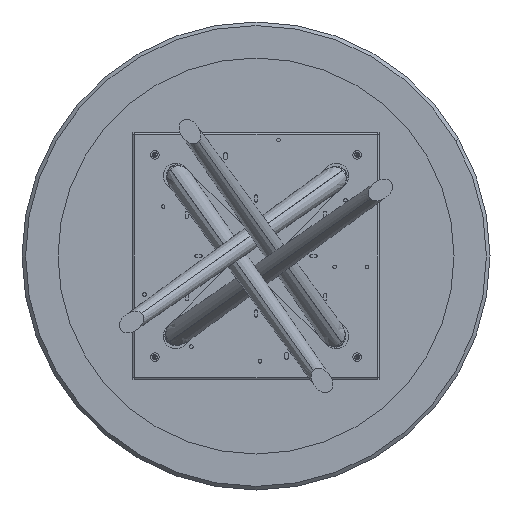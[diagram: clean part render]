
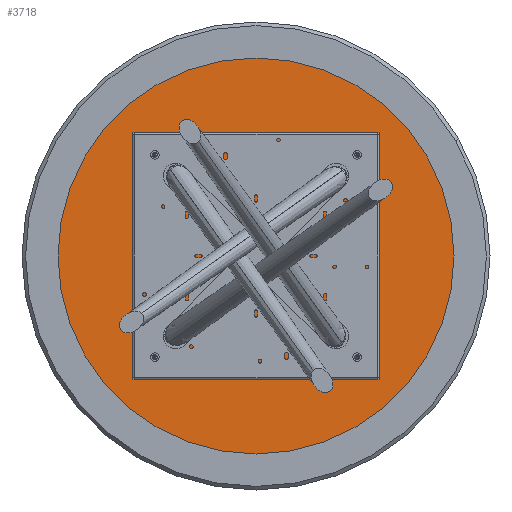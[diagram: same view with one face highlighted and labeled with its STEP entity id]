
A CAD part, front view. The second image highlights one B-rep face of the part: STEP entity #3718.
In plain terms, the highlighted planar face has unit normal (0, -1, 0).
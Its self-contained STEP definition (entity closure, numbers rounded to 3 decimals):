
#61 = FACE_BOUND ( 'NONE', #10996, .T. ) ;
#127 = DIRECTION ( 'NONE',  ( 0., 0., -1. ) ) ;
#259 = CARTESIAN_POINT ( 'NONE',  ( 397.5, 0., -3.4 ) ) ;
#334 = CARTESIAN_POINT ( 'NONE',  ( 0., 0., 550. ) ) ;
#338 = VERTEX_POINT ( 'NONE', #7063 ) ;
#502 = EDGE_CURVE ( 'NONE', #12210, #4752, #9726, .T. ) ;
#581 = CIRCLE ( 'NONE', #10835, 3.4 ) ;
#654 = CARTESIAN_POINT ( 'NONE',  ( 0., 0., 6.3 ) ) ;
#704 = AXIS2_PLACEMENT_3D ( 'NONE', #17558, #1125, #10766 ) ;
#822 = CARTESIAN_POINT ( 'NONE',  ( 397.5, 0., 0. ) ) ;
#827 = AXIS2_PLACEMENT_3D ( 'NONE', #8228, #2523, #7955 ) ;
#977 = CIRCLE ( 'NONE', #10679, 3.4 ) ;
#1125 = DIRECTION ( 'NONE',  ( 0., 1., 0. ) ) ;
#1285 = EDGE_CURVE ( 'NONE', #338, #9634, #15252, .T. ) ;
#1685 = DIRECTION ( 'NONE',  ( 0., -1., 0. ) ) ;
#2099 = DIRECTION ( 'NONE',  ( 0., 0., -1. ) ) ;
#2197 = EDGE_LOOP ( 'NONE', ( #5342, #2463 ) ) ;
#2326 = AXIS2_PLACEMENT_3D ( 'NONE', #8586, #12848, #7509 ) ;
#2436 = EDGE_LOOP ( 'NONE', ( #9378, #3896 ) ) ;
#2463 = ORIENTED_EDGE ( 'NONE', *, *, #4384, .F. ) ;
#2523 = DIRECTION ( 'NONE',  ( 0., 1., 0. ) ) ;
#2785 = ORIENTED_EDGE ( 'NONE', *, *, #14747, .F. ) ;
#2996 = ORIENTED_EDGE ( 'NONE', *, *, #9427, .F. ) ;
#3018 = CARTESIAN_POINT ( 'NONE',  ( -397.5, 0., 0. ) ) ;
#3320 = CARTESIAN_POINT ( 'NONE',  ( 0., 0., 397.5 ) ) ;
#3414 = DIRECTION ( 'NONE',  ( 0., 0., -1. ) ) ;
#3485 = EDGE_CURVE ( 'NONE', #8250, #12614, #977, .T. ) ;
#3567 = CARTESIAN_POINT ( 'NONE',  ( 0., 0., -6.3 ) ) ;
#3568 = AXIS2_PLACEMENT_3D ( 'NONE', #3320, #15693, #5989 ) ;
#3718 = ADVANCED_FACE ( 'NONE', ( #61, #17472, #12175, #16257, #3796, #8253 ), #4063, .F. ) ;
#3796 = FACE_BOUND ( 'NONE', #17020, .T. ) ;
#3896 = ORIENTED_EDGE ( 'NONE', *, *, #502, .F. ) ;
#3975 = AXIS2_PLACEMENT_3D ( 'NONE', #822, #8767, #3414 ) ;
#4063 = PLANE ( 'NONE',  #704 ) ;
#4200 = CARTESIAN_POINT ( 'NONE',  ( 0., 0., -394.1 ) ) ;
#4233 = AXIS2_PLACEMENT_3D ( 'NONE', #5156, #14600, #15846 ) ;
#4258 = CARTESIAN_POINT ( 'NONE',  ( 397.5, 0., 0. ) ) ;
#4384 = EDGE_CURVE ( 'NONE', #9634, #338, #16633, .T. ) ;
#4389 = ORIENTED_EDGE ( 'NONE', *, *, #10142, .F. ) ;
#4752 = VERTEX_POINT ( 'NONE', #10257 ) ;
#5109 = DIRECTION ( 'NONE',  ( 0., -1., 0. ) ) ;
#5156 = CARTESIAN_POINT ( 'NONE',  ( 0., 0., 0. ) ) ;
#5342 = ORIENTED_EDGE ( 'NONE', *, *, #1285, .F. ) ;
#5355 = EDGE_CURVE ( 'NONE', #11136, #10849, #5587, .T. ) ;
#5587 = CIRCLE ( 'NONE', #16942, 3.4 ) ;
#5659 = ORIENTED_EDGE ( 'NONE', *, *, #3485, .F. ) ;
#5782 = DIRECTION ( 'NONE',  ( 0., 0., -1. ) ) ;
#5989 = DIRECTION ( 'NONE',  ( 0., 0., -1. ) ) ;
#6080 = CARTESIAN_POINT ( 'NONE',  ( 0., 0., -400.9 ) ) ;
#6384 = ORIENTED_EDGE ( 'NONE', *, *, #9218, .F. ) ;
#6636 = VERTEX_POINT ( 'NONE', #3567 ) ;
#6732 = CARTESIAN_POINT ( 'NONE',  ( -397.5, 0., -3.4 ) ) ;
#6798 = CARTESIAN_POINT ( 'NONE',  ( 0., 0., -397.5 ) ) ;
#6933 = DIRECTION ( 'NONE',  ( 0., -1., 0. ) ) ;
#6946 = DIRECTION ( 'NONE',  ( 0., 0., -1. ) ) ;
#7033 = VERTEX_POINT ( 'NONE', #259 ) ;
#7063 = CARTESIAN_POINT ( 'NONE',  ( 0., 0., 394.1 ) ) ;
#7111 = CIRCLE ( 'NONE', #3975, 3.4 ) ;
#7326 = ORIENTED_EDGE ( 'NONE', *, *, #5355, .F. ) ;
#7509 = DIRECTION ( 'NONE',  ( 0., 0., 1. ) ) ;
#7955 = DIRECTION ( 'NONE',  ( 0., 0., 1. ) ) ;
#8052 = EDGE_LOOP ( 'NONE', ( #13087, #17095 ) ) ;
#8193 = AXIS2_PLACEMENT_3D ( 'NONE', #8749, #16995, #16825 ) ;
#8228 = CARTESIAN_POINT ( 'NONE',  ( 0., 0., 0. ) ) ;
#8250 = VERTEX_POINT ( 'NONE', #6732 ) ;
#8253 = FACE_OUTER_BOUND ( 'NONE', #2436, .T. ) ;
#8297 = CARTESIAN_POINT ( 'NONE',  ( 397.5, 0., 3.4 ) ) ;
#8458 = DIRECTION ( 'NONE',  ( 0., 0., -1. ) ) ;
#8471 = CARTESIAN_POINT ( 'NONE',  ( 0., 0., 0. ) ) ;
#8586 = CARTESIAN_POINT ( 'NONE',  ( 0., 0., 0. ) ) ;
#8726 = AXIS2_PLACEMENT_3D ( 'NONE', #8782, #11629, #2099 ) ;
#8749 = CARTESIAN_POINT ( 'NONE',  ( -397.5, 0., 0. ) ) ;
#8767 = DIRECTION ( 'NONE',  ( 0., -1., 0. ) ) ;
#8782 = CARTESIAN_POINT ( 'NONE',  ( 0., 0., 397.5 ) ) ;
#9218 = EDGE_CURVE ( 'NONE', #12614, #8250, #14443, .T. ) ;
#9378 = ORIENTED_EDGE ( 'NONE', *, *, #15616, .F. ) ;
#9427 = EDGE_CURVE ( 'NONE', #10849, #11136, #15026, .T. ) ;
#9560 = EDGE_LOOP ( 'NONE', ( #5659, #6384 ) ) ;
#9586 = VERTEX_POINT ( 'NONE', #654 ) ;
#9634 = VERTEX_POINT ( 'NONE', #17100 ) ;
#9726 = CIRCLE ( 'NONE', #2326, 550. ) ;
#10142 = EDGE_CURVE ( 'NONE', #6636, #9586, #12764, .T. ) ;
#10257 = CARTESIAN_POINT ( 'NONE',  ( 0., 0., -550. ) ) ;
#10573 = DIRECTION ( 'NONE',  ( 0., 0., -1. ) ) ;
#10679 = AXIS2_PLACEMENT_3D ( 'NONE', #3018, #1685, #8458 ) ;
#10766 = DIRECTION ( 'NONE',  ( 0., 0., 1. ) ) ;
#10835 = AXIS2_PLACEMENT_3D ( 'NONE', #4258, #6933, #5782 ) ;
#10849 = VERTEX_POINT ( 'NONE', #6080 ) ;
#10946 = EDGE_CURVE ( 'NONE', #16291, #7033, #7111, .T. ) ;
#10996 = EDGE_LOOP ( 'NONE', ( #4389, #2785 ) ) ;
#11105 = CIRCLE ( 'NONE', #827, 550. ) ;
#11136 = VERTEX_POINT ( 'NONE', #4200 ) ;
#11287 = CARTESIAN_POINT ( 'NONE',  ( -397.5, 0., 3.4 ) ) ;
#11629 = DIRECTION ( 'NONE',  ( 0., -1., 0. ) ) ;
#12175 = FACE_BOUND ( 'NONE', #2197, .T. ) ;
#12210 = VERTEX_POINT ( 'NONE', #334 ) ;
#12336 = DIRECTION ( 'NONE',  ( 0., -1., 0. ) ) ;
#12614 = VERTEX_POINT ( 'NONE', #11287 ) ;
#12764 = CIRCLE ( 'NONE', #4233, 6.3 ) ;
#12848 = DIRECTION ( 'NONE',  ( 0., 1., 0. ) ) ;
#13087 = ORIENTED_EDGE ( 'NONE', *, *, #16655, .F. ) ;
#13329 = CIRCLE ( 'NONE', #13901, 6.3 ) ;
#13901 = AXIS2_PLACEMENT_3D ( 'NONE', #8471, #13995, #6946 ) ;
#13995 = DIRECTION ( 'NONE',  ( 0., -1., 0. ) ) ;
#14443 = CIRCLE ( 'NONE', #8193, 3.4 ) ;
#14600 = DIRECTION ( 'NONE',  ( 0., -1., 0. ) ) ;
#14747 = EDGE_CURVE ( 'NONE', #9586, #6636, #13329, .T. ) ;
#15026 = CIRCLE ( 'NONE', #16998, 3.4 ) ;
#15252 = CIRCLE ( 'NONE', #8726, 3.4 ) ;
#15616 = EDGE_CURVE ( 'NONE', #4752, #12210, #11105, .T. ) ;
#15693 = DIRECTION ( 'NONE',  ( 0., -1., 0. ) ) ;
#15846 = DIRECTION ( 'NONE',  ( 0., 0., -1. ) ) ;
#16238 = CARTESIAN_POINT ( 'NONE',  ( 0., 0., -397.5 ) ) ;
#16257 = FACE_BOUND ( 'NONE', #8052, .T. ) ;
#16291 = VERTEX_POINT ( 'NONE', #8297 ) ;
#16633 = CIRCLE ( 'NONE', #3568, 3.4 ) ;
#16655 = EDGE_CURVE ( 'NONE', #7033, #16291, #581, .T. ) ;
#16825 = DIRECTION ( 'NONE',  ( 0., 0., -1. ) ) ;
#16942 = AXIS2_PLACEMENT_3D ( 'NONE', #16238, #12336, #127 ) ;
#16995 = DIRECTION ( 'NONE',  ( 0., -1., 0. ) ) ;
#16998 = AXIS2_PLACEMENT_3D ( 'NONE', #6798, #5109, #10573 ) ;
#17020 = EDGE_LOOP ( 'NONE', ( #2996, #7326 ) ) ;
#17095 = ORIENTED_EDGE ( 'NONE', *, *, #10946, .F. ) ;
#17100 = CARTESIAN_POINT ( 'NONE',  ( 0., 0., 400.9 ) ) ;
#17472 = FACE_BOUND ( 'NONE', #9560, .T. ) ;
#17558 = CARTESIAN_POINT ( 'NONE',  ( 0., 0., 0. ) ) ;
